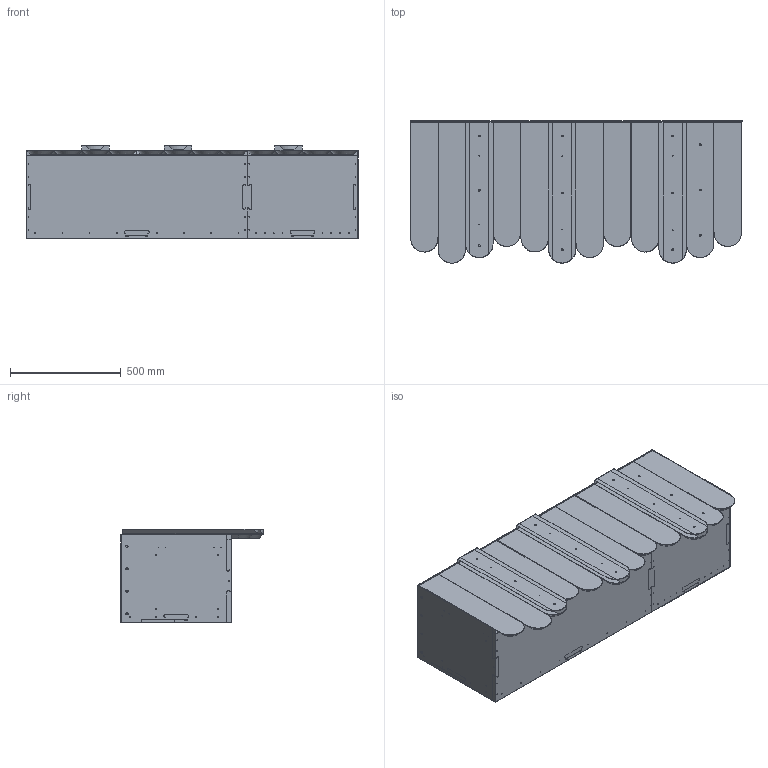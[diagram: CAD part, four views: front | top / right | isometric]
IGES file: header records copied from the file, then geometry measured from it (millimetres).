
Start section: SolidWorks IGES file using analytic representation for surfaces
Global section: file name: \\UTENTI\Dati Utenti\Tecnico\DC\2D - 3D per sito\3D\DeCastelli-3D-Xilo Console 150.igs; native system: SolidWorks 2022; preprocessor: SolidWorks 2022; author: filippo; date: 240724.135730; units: millimetre
Bounding box: 1498.56 x 642.37 x 421.1 mm (x, y, z)
Surface area: 12034077.8 mm2 (no closed solid volume)
Topology: 0 solids, 0 shells, 448 faces, 12564 edges, 12564 vertices
Faces by surface type: bspline 251, revolution 197
